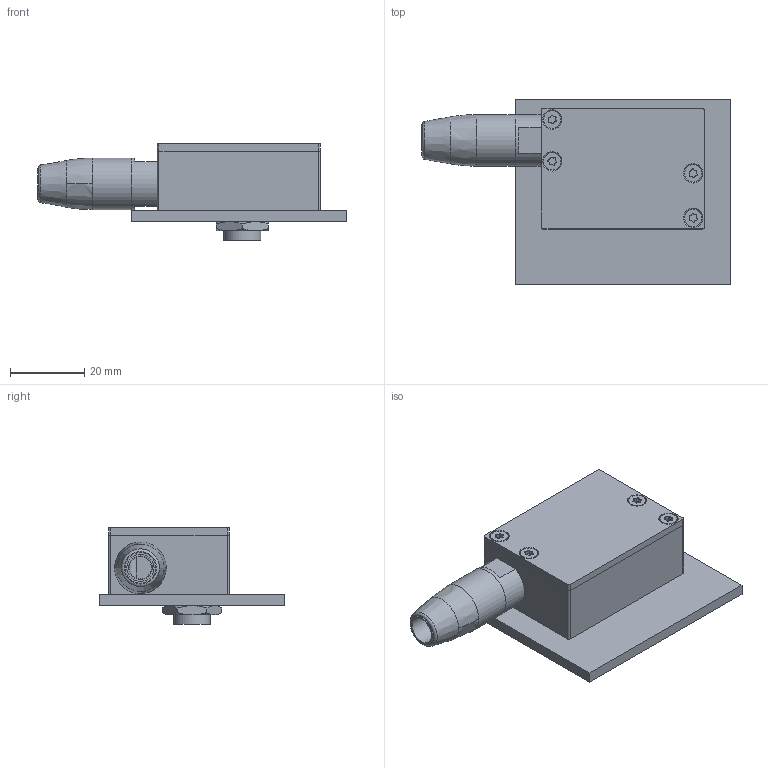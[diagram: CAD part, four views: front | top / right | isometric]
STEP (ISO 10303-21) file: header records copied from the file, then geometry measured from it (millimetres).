
FILE_DESCRIPTION(/* description */ ('Enclosure Gen2 for VX154x Serial POD'),/* implementation_level */ '2;1');
FILE_NAME(/* name */ 'C:\Users\TeamCenterSystem\Documents\Inventor\GRP_001276_iam.STP',/* time_stamp */ '2023-02-01T18:48:56+01:00',/* author */ ('vista'),/* organization */ (''),/* preprocessor_version */ 'ST-DEVELOPER v17.2',/* originating_system */ 'Autodesk Inventor 2019',/* authorisation */ '');
FILE_SCHEMA (('AUTOMOTIVE_DESIGN { 1 0 10303 214 3 1 1 }'));
Length unit declared in the file: millimetre
Products named in the file (10): GRP_001276; MEC_001561; MEC_001562; CMP_000196; MEC_001375; CMP_002393; CMP_002394; CMP_002545; CMP_002546; CMP_002550
Assembly tree (12 placements, depth 2):
  GRP_001276
    MEC_001561
    MEC_001562
    CMP_000196  x4
    MEC_001375
    CMP_002393
    CMP_002394
    CMP_002545
    CMP_002546
    CMP_002550
Bounding box: 83.2 x 50 x 26 mm (x, y, z)
Volume: 27340.4 mm3; surface area: 21874.4 mm2
Topology: 12 solids, 12 shells, 262 faces, 692 edges, 463 vertices
Faces by surface type: cylinder 116, plane 88, cone 41, torus 13, bspline 4
Full cylindrical faces by diameter (mm): 2.013 x6, 2.3 x1, 2.5 x4, 2.6 x4, 4.7 x4, 6 x1, 7.35 x1, 7.5 x1, 8.3 x1, 8.35 x1, 8.376 x1, 8.75 x1, 9.75 x3, 10 x3, 10.5 x1, 13 x1, 13.9 x2
Entity records: 7026 total; most frequent: CARTESIAN_POINT 1274, DIRECTION 1226, ORIENTED_EDGE 1078, EDGE_CURVE 539, AXIS2_PLACEMENT_3D 495, VERTEX_POINT 364, CIRCLE 270, EDGE_LOOP 241
